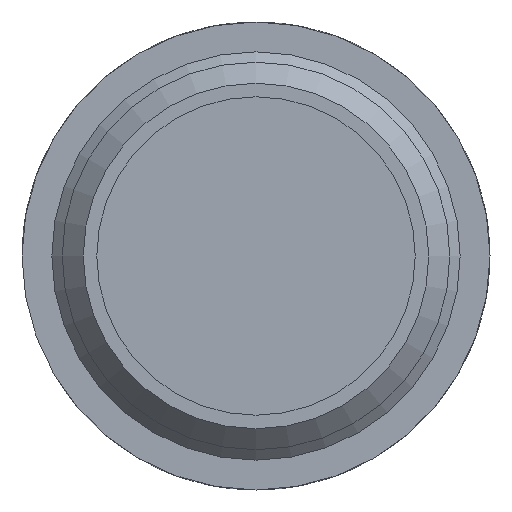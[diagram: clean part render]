
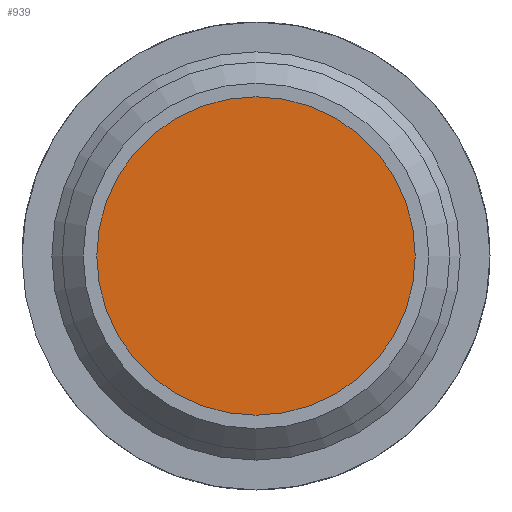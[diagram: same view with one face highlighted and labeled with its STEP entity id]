
A CAD part, left-side view. The second image highlights one B-rep face of the part: STEP entity #939.
In plain terms, the highlighted planar face has unit normal (-1, 0, 0).
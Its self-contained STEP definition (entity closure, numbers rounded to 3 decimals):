
#120=PLANE($,#1072);
#193=FACE_OUTER_BOUND($,#260,.T.);
#260=EDGE_LOOP($,(#731));
#344=CIRCLE($,#1073,65.);
#433=VERTEX_POINT($,#1904);
#558=EDGE_CURVE($,#433,#433,#344,.T.);
#731=ORIENTED_EDGE($,*,*,#558,.F.);
#939=ADVANCED_FACE($,(#193),#120,.T.);
#1072=AXIS2_PLACEMENT_3D($,#1903,#1355,#1356);
#1073=AXIS2_PLACEMENT_3D($,#1905,#1357,#1358);
#1355=DIRECTION('center_axis',(-1.,0.,0.));
#1356=DIRECTION('ref_axis',(0.,0.,1.));
#1357=DIRECTION('center_axis',(1.,0.,0.));
#1358=DIRECTION('ref_axis',(0.,1.,0.));
#1903=CARTESIAN_POINT('Origin',(-6.,32.5,0.));
#1904=CARTESIAN_POINT('',(-6.,65.,0.));
#1905=CARTESIAN_POINT('Origin',(-6.,0.,0.));
